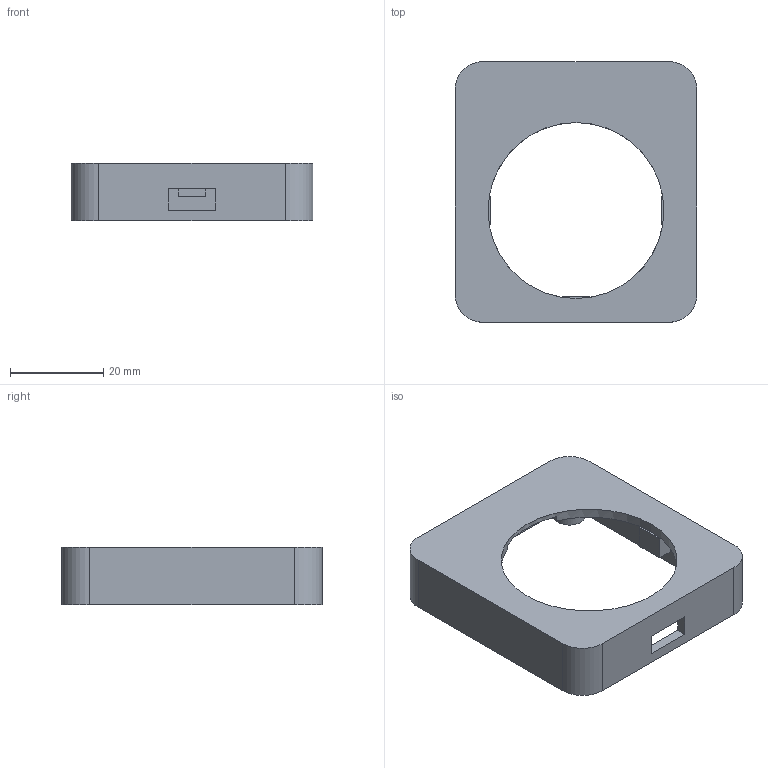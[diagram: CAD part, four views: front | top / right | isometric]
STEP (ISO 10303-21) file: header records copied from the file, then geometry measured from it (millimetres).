
FILE_DESCRIPTION(('Open CASCADE Model'),'2;1');
FILE_NAME('Open CASCADE Shape Model','2026-08-12T19:03:26',('Author'),( 'Open CASCADE'),'Open CASCADE STEP processor 7.9','Open CASCADE 7.9' ,'Unknown');
FILE_SCHEMA(('AUTOMOTIVE_DESIGN { 1 0 10303 214 1 1 1 1 }'));
Length unit declared in the file: millimetre
Products named in the file (1): Open CASCADE STEP translator 7.9 1
Bounding box: 52 x 56 x 12.4 mm (x, y, z)
Volume: 9421.1 mm3; surface area: 9000.7 mm2
Topology: 1 solids, 1 shells, 58 faces, 153 edges, 102 vertices
Faces by surface type: plane 44, cylinder 14
Full cylindrical faces by diameter (mm): 3.2 x4, 37.8 x1
Entity records: 3753 total; most frequent: CARTESIAN_POINT 820, DIRECTION 498, ORIENTED_EDGE 306, PCURVE 306, DEFINITIONAL_REPRESENTATION 306, LINE 289, VECTOR 289, EDGE_CURVE 153
